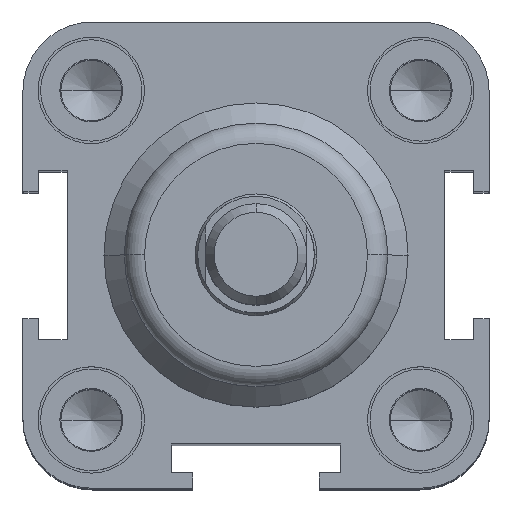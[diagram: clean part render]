
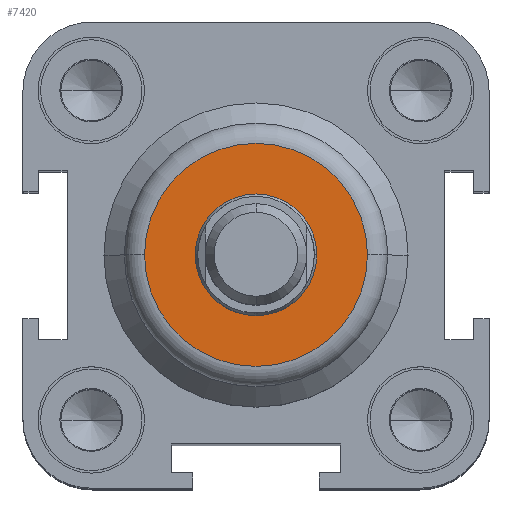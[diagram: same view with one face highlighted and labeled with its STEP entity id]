
A CAD part, top view. The second image highlights one B-rep face of the part: STEP entity #7420.
In plain terms, the highlighted planar face has unit normal (0, 0, 1).
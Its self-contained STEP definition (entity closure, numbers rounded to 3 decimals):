
#1472=CARTESIAN_POINT('',(-11.,0.0,63.));
#1473=VERTEX_POINT('',#1472);
#1481=CARTESIAN_POINT('',(11.,0.,63.));
#1482=VERTEX_POINT('',#1481);
#1483=CARTESIAN_POINT('',(0.0,0.0,63.));
#1484=DIRECTION('',(0.0,0.0,-1.0));
#1485=DIRECTION('',(-1.0,0.0,0.0));
#1486=AXIS2_PLACEMENT_3D('',#1483,#1484,#1485);
#1487=CIRCLE('',#1486,11.);
#1488=EDGE_CURVE('',#1473,#1482,#1487,.T.);
#1593=CARTESIAN_POINT('',(6.,0.0,63.));
#1594=VERTEX_POINT('',#1593);
#1610=CARTESIAN_POINT('',(-6.,0.,63.));
#1611=VERTEX_POINT('',#1610);
#1618=CARTESIAN_POINT('',(0.0,0.0,63.));
#1619=DIRECTION('',(0.0,0.0,-1.0));
#1620=DIRECTION('',(1.0,0.0,0.0));
#1621=AXIS2_PLACEMENT_3D('',#1618,#1619,#1620);
#1622=CIRCLE('',#1621,6.);
#1623=EDGE_CURVE('',#1594,#1611,#1622,.T.);
#7347=CARTESIAN_POINT('',(0.0,0.0,63.));
#7348=DIRECTION('',(0.0,0.0,-1.0));
#7349=DIRECTION('',(1.0,0.0,0.0));
#7350=AXIS2_PLACEMENT_3D('',#7347,#7348,#7349);
#7351=CIRCLE('',#7350,6.);
#7352=EDGE_CURVE('',#1611,#1594,#7351,.T.);
#7401=CARTESIAN_POINT('',(-5.5,0.0,63.));
#7402=DIRECTION('',(0.0,0.0,1.0));
#7403=DIRECTION('',(1.0,0.0,0.0));
#7404=AXIS2_PLACEMENT_3D('',#7401,#7402,#7403);
#7405=PLANE('',#7404);
#7406=ORIENTED_EDGE('',*,*,#1488,.F.);
#7407=CARTESIAN_POINT('',(0.0,0.0,63.));
#7408=DIRECTION('',(0.0,0.0,-1.0));
#7409=DIRECTION('',(-1.0,0.0,0.0));
#7410=AXIS2_PLACEMENT_3D('',#7407,#7408,#7409);
#7411=CIRCLE('',#7410,11.);
#7412=EDGE_CURVE('',#1482,#1473,#7411,.T.);
#7413=ORIENTED_EDGE('',*,*,#7412,.F.);
#7414=EDGE_LOOP('',(#7406,#7413));
#7415=FACE_OUTER_BOUND('',#7414,.T.);
#7416=ORIENTED_EDGE('',*,*,#1623,.T.);
#7417=ORIENTED_EDGE('',*,*,#7352,.T.);
#7418=EDGE_LOOP('',(#7416,#7417));
#7419=FACE_BOUND('',#7418,.T.);
#7420=ADVANCED_FACE('',(#7415,#7419),#7405,.T.);
